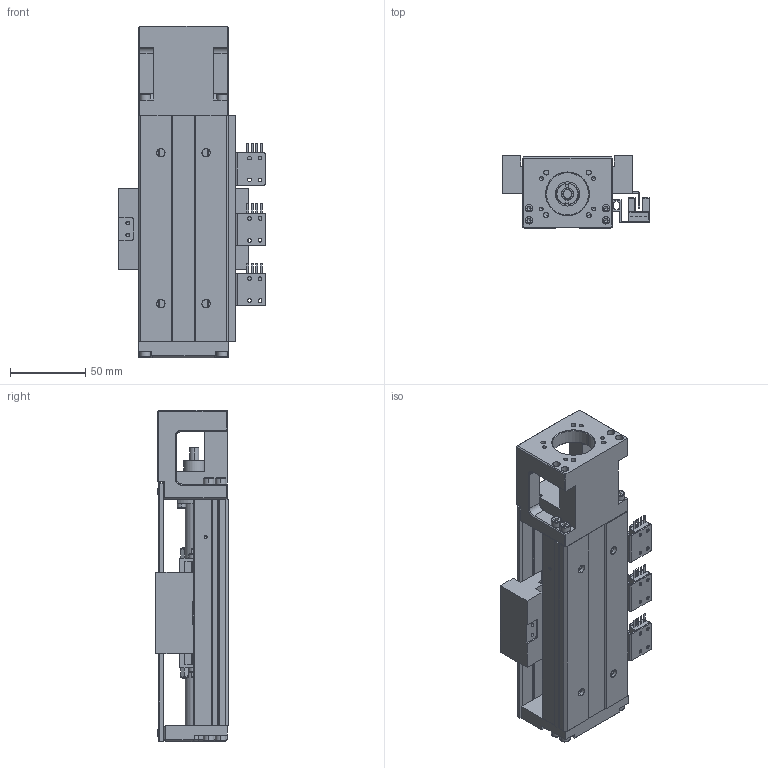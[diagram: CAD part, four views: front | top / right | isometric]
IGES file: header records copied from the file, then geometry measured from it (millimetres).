
Start section: SolidWorks IGES file using analytic representation for surfaces
Bounding box: 97.3 x 48 x 220 mm (x, y, z)
Surface area: 154929.9 mm2 (no closed solid volume)
Topology: 0 solids, 0 shells, 1694 faces, 19235 edges, 19098 vertices
Faces by surface type: bspline 1002, revolution 692
